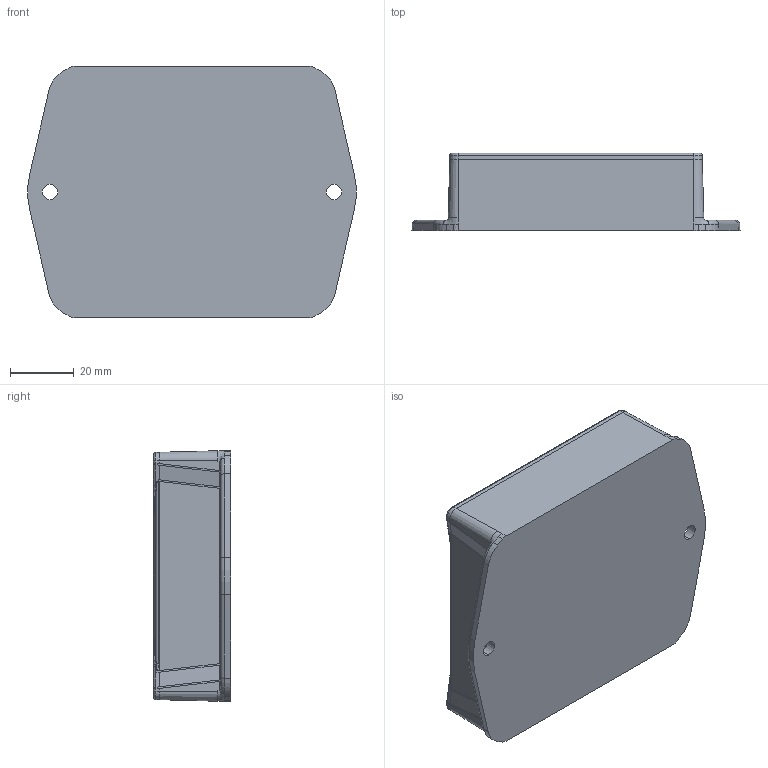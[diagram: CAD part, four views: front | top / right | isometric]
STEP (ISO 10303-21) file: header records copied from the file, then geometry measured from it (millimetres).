
FILE_DESCRIPTION (( 'STEP AP214' ), '1' );
FILE_NAME ('BT-3308MB.STEP', '2010-11-03T20:34:26', ( 'Designer2010' ), ( '' ), 'SwSTEP 2.0', 'SolidWorks 2010', '' );
FILE_SCHEMA (( 'AUTOMOTIVE_DESIGN' ));
Length unit declared in the file: inch
Products named in the file (6): B_-33C_BT-33C; B_-33xxB_BT-3308BMB; SCREWS-LP-BR_SCREWS-LP-BR; BT-33xxBMB-PCB_BT-3308BMB-PCB; SCREWS-MBR; BT-3308MB
Assembly tree (11 placements, depth 2):
  BT-3308MB
    SCREWS-MBR  x4
    SCREWS-LP-BR_SCREWS-LP-BR  x4
    B_-33C_BT-33C
    B_-33xxB_BT-3308BMB
    BT-33xxBMB-PCB_BT-3308BMB-PCB
Bounding box: 102.68 x 24.13 x 78.63 mm (x, y, z)
Volume: 53122.6 mm3; surface area: 54762.3 mm2
Topology: 11 solids, 11 shells, 993 faces, 2734 edges, 1780 vertices
Faces by surface type: cone 312, plane 301, cylinder 280, bspline 58, torus 26, sphere 16
Entity records: 32172 total; most frequent: CARTESIAN_POINT 14305, ORIENTED_EDGE 3806, DIRECTION 3741, EDGE_CURVE 1903, AXIS2_PLACEMENT_3D 1440, VERTEX_POINT 1240, LINE 861, VECTOR 861
